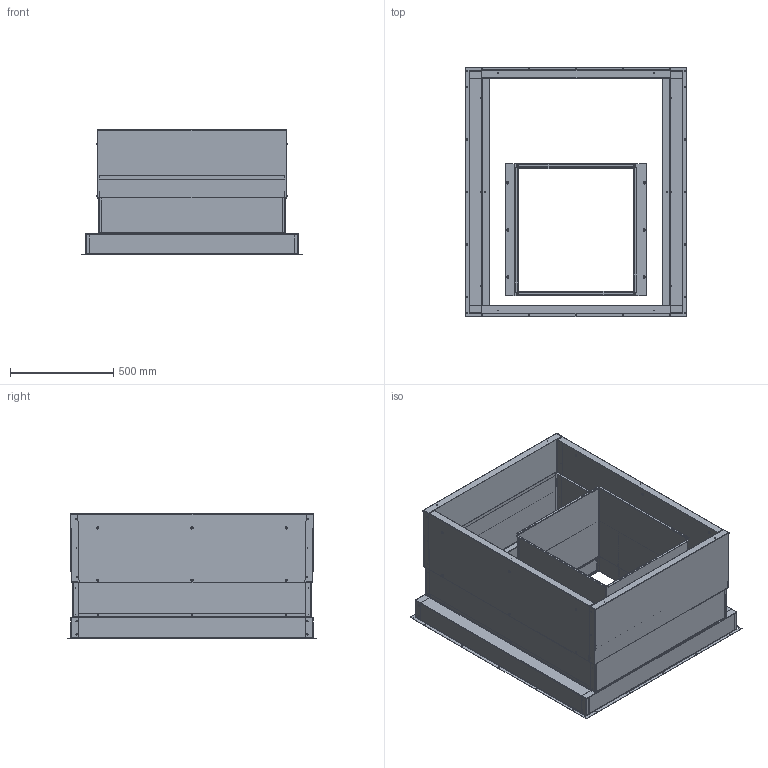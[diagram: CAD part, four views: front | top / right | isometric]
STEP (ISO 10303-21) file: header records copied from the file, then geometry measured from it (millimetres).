
FILE_DESCRIPTION (( 'STEP AP214' ), '1' );
FILE_NAME ('IWSR-C23.STEP', '2022-09-20T15:56:53', ( '' ), ( '' ), 'SwSTEP 2.0', 'SolidWorks 2022', '' );
FILE_SCHEMA (( 'AUTOMOTIVE_DESIGN' ));
Length unit declared in the file: inch
Products named in the file (11): 110-343_TOP VIEW; 110-355; 110-315; 110-342; 110-321; 110-320; 110-316; IWSR-C23; 110-281; 5021-1692; 110-280
Assembly tree (19 placements, depth 2):
  IWSR-C23
    110-342  x2
    110-343_TOP VIEW  x2
    110-281  x2
    110-280  x2
    110-315  x2
    110-316  x2
    110-320  x2
    110-321  x2
    110-355  x2
    5021-1692
Bounding box: 1070.78 x 1209.39 x 604.72 mm (x, y, z)
Volume: 9159926.5 mm3; surface area: 11548033.4 mm2
Topology: 19 solids, 19 shells, 1400 faces, 3494 edges, 2164 vertices
Faces by surface type: cylinder 738, plane 558, sphere 48, torus 48, bspline 8
Entity records: 22691 total; most frequent: DIRECTION 4026, CARTESIAN_POINT 3853, ORIENTED_EDGE 3506, EDGE_CURVE 1753, AXIS2_PLACEMENT_3D 1575, VERTEX_POINT 1086, EDGE_LOOP 979, LINE 876
